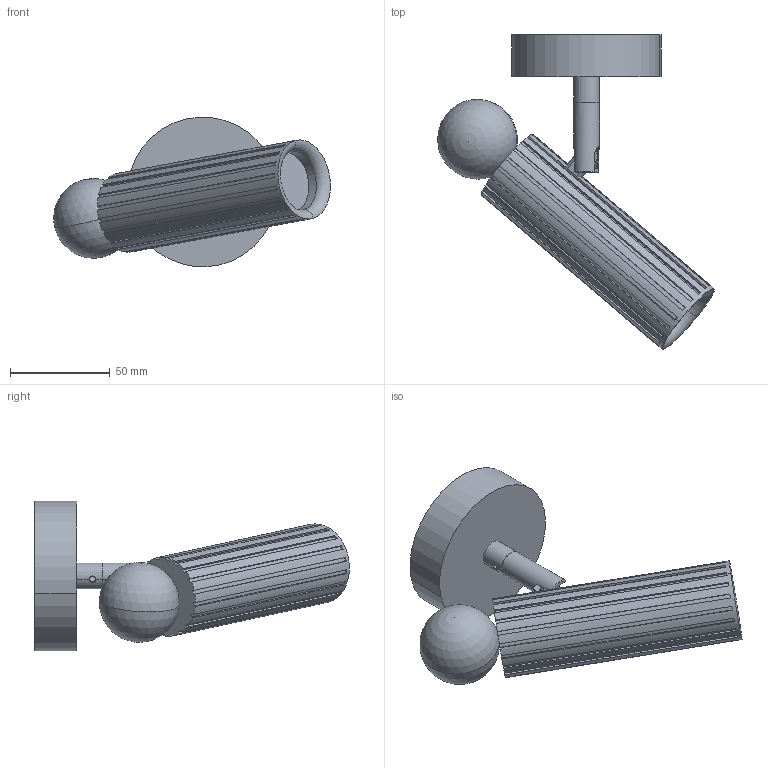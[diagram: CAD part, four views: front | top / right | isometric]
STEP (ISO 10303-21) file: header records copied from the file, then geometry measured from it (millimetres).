
FILE_DESCRIPTION (( 'STEP AP214' ), '1' );
FILE_NAME ('FOCO2_ROTULA.STEP', '2026-08-28T09:26:09', ( '' ), ( '' ), 'SwSTEP 2.0', 'SolidWorks 2023', '' );
FILE_SCHEMA (( 'AUTOMOTIVE_DESIGN' ));
Length unit declared in the file: millimetre
Products named in the file (3): FOCO2_ROTULA; floron con rotula; foco2.2
Assembly tree (2 placements, depth 2):
  FOCO2_ROTULA
    foco2.2
    floron con rotula
Bounding box: 138.62 x 157.6 x 74.87 mm (x, y, z)
Volume: 192380 mm3; surface area: 52505.1 mm2
Topology: 12 solids, 12 shells, 279 faces, 723 edges, 472 vertices
Faces by surface type: plane 137, cylinder 88, cone 32, sphere 10, torus 6, bspline 6
Entity records: 15751 total; most frequent: CARTESIAN_POINT 8633, DIRECTION 1483, ORIENTED_EDGE 1434, EDGE_CURVE 717, AXIS2_PLACEMENT_3D 551, VERTEX_POINT 469, LINE 381, VECTOR 381
